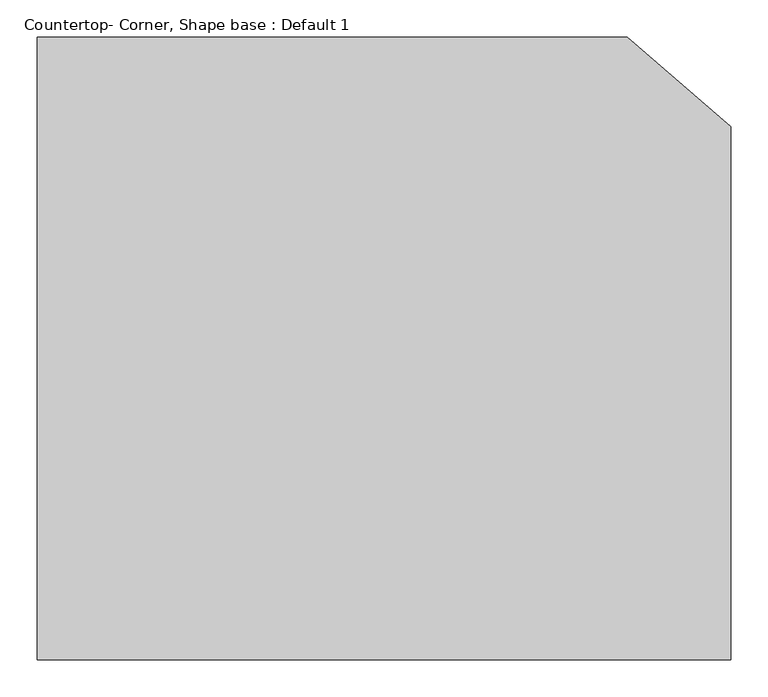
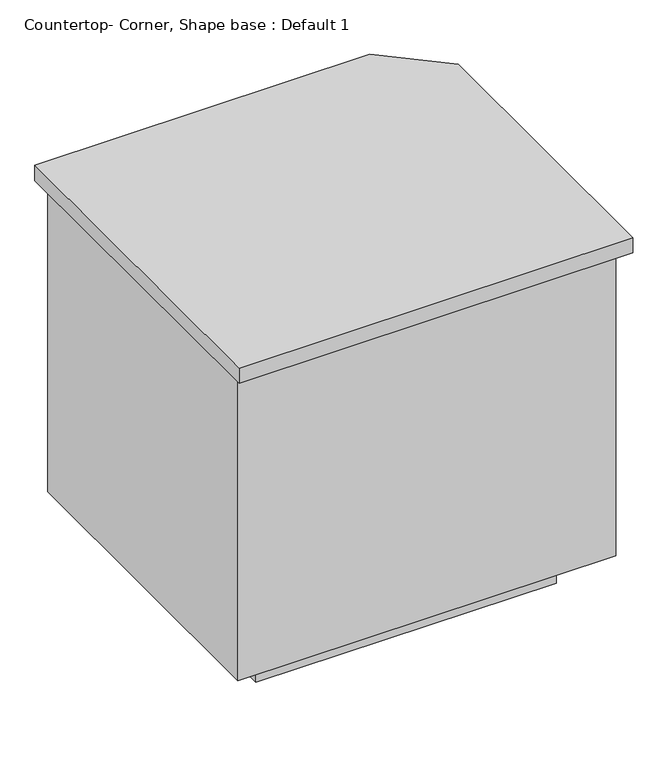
"""IFC4 building model written with IfcOpenShell, lengths in millimetres: proxy geometry, Countertop- Corner, Shape base : Default 1."""

from ifc_helpers import new_model, si_unit, frame, origin, origin_with_axes, place, context, project, spatial, polyline, outline, extrude, source, transform, mapped, element, save


def countertop_corner_shape_base_default_1_e423a1db(model_context):
    return source(origin(), model_context, "Body", "SweptSolid", [
        extrude(outline(polyline([(591.05, -19.05), (591.05, 819.15), (1384.8, 819.15), (1524.5, 698.5), (1524.5, -19.05), (591.05, -19.05)])), frame((0.0, 0.0, 876.3), z_axis=(0.0, 0.0, 1.0), x_axis=(1.0, 0.0, 0.0)), (0.0, 0.0, 1.0), 38.1),
        extrude(outline(polyline([(610.1, 800.1), (1365.75, 800.1), (1505.45, 679.45), (1505.45, 19.05), (610.1, 19.05), (610.1, 800.1)])), frame((0.0, 0.0, 101.6), z_axis=(0.0, 0.0, 1.0), x_axis=(1.0, 0.0, 0.0)), (0.0, 0.0, 1.0), 774.7),
        extrude(outline(polyline([(711.7, 698.5), (1289.3954163, 698.5), (1422.9, 577.85), (1422.9, 120.65), (711.7, 120.65), (711.7, 698.5)])), origin_with_axes(), (0.0, 0.0, 1.0), 101.6),
    ])


if __name__ == "__main__":
    model = new_model("IFC4")
    model_context = context("Model", 3, world=origin())
    ifc_project = project(units=[si_unit("LENGTHUNIT", "METRE", prefix="MILLI")], contexts=[model_context])
    site = spatial("IfcSite", under=ifc_project)
    building = spatial("IfcBuilding", under=site)
    placement = place(None, origin())
    countertop_corner_shape_base_default_1_shape = countertop_corner_shape_base_default_1_e423a1db(model_context)
    element("IfcBuildingElementProxy", 1, Name="Countertop- Corner, Shape base : Default 1", ObjectType="Countertop- Corner, Shape base : Default 1", at=placement, inside=building, context=model_context, shape_type="MappedRepresentation", body=[
        mapped(countertop_corner_shape_base_default_1_shape, transform((0.0, 0.0, 0.0), x_axis=(1.0, 0.0, 0.0), y_axis=(0.0, 1.0, 0.0), z_axis=(0.0, 0.0, 1.0))),
    ])
    save(model, "model.ifc")
